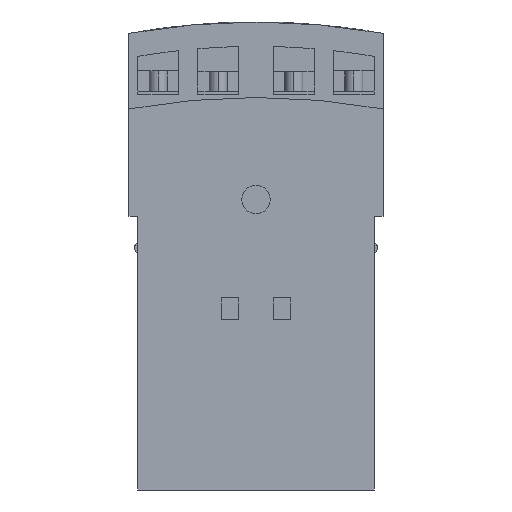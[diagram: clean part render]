
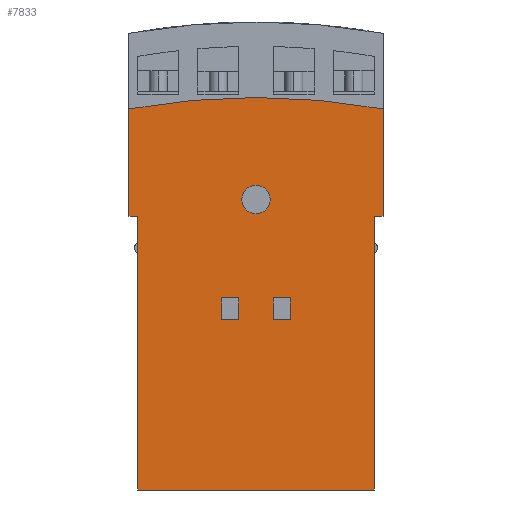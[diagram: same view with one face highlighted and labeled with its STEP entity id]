
A CAD part, front view. The second image highlights one B-rep face of the part: STEP entity #7833.
In plain terms, the highlighted planar face has unit normal (0, -1, 0).
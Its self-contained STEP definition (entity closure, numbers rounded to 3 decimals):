
#196=DIRECTION('',(1.,0.,0.));
#197=VECTOR('',#196,41.7);
#198=CARTESIAN_POINT('',(1.55,0.,0.));
#199=LINE('',#198,#197);
#2300=CARTESIAN_POINT('',(22.4,0.,-56.64));
#2301=DIRECTION('',(0.,-1.,0.));
#2302=DIRECTION('',(0.178,0.,0.984));
#2303=AXIS2_PLACEMENT_3D('',#2300,#2301,#2302);
#2308=DIRECTION('',(0.,0.,-1.));
#2309=VECTOR('',#2308,18.878);
#2310=CARTESIAN_POINT('',(44.8,0.,67.178));
#2311=LINE('',#2310,#2309);
#2315=DIRECTION('',(1.,0.,0.));
#2316=VECTOR('',#2315,1.55);
#2317=CARTESIAN_POINT('',(43.25,0.,48.3));
#2318=LINE('',#2317,#2316);
#2322=DIRECTION('',(0.,0.,1.));
#2323=VECTOR('',#2322,48.3);
#2324=CARTESIAN_POINT('',(43.25,0.,0.));
#2325=LINE('',#2324,#2323);
#2329=DIRECTION('',(0.,0.,1.));
#2330=VECTOR('',#2329,48.3);
#2331=CARTESIAN_POINT('',(1.55,0.,0.));
#2332=LINE('',#2331,#2330);
#2336=DIRECTION('',(-1.,0.,0.));
#2337=VECTOR('',#2336,1.55);
#2338=CARTESIAN_POINT('',(1.55,0.,48.3));
#2339=LINE('',#2338,#2337);
#2343=DIRECTION('',(0.,0.,1.));
#2344=VECTOR('',#2343,18.878);
#2345=CARTESIAN_POINT('',(0.,0.,48.3));
#2346=LINE('',#2345,#2344);
#2350=DIRECTION('',(0.,0.,1.));
#2351=VECTOR('',#2350,3.859);
#2352=CARTESIAN_POINT('',(28.45,0.,30.02));
#2353=LINE('',#2352,#2351);
#2357=DIRECTION('',(-1.,0.,0.));
#2358=VECTOR('',#2357,3.);
#2359=CARTESIAN_POINT('',(28.45,0.,33.88));
#2360=LINE('',#2359,#2358);
#2364=DIRECTION('',(0.,0.,-1.));
#2365=VECTOR('',#2364,3.859);
#2366=CARTESIAN_POINT('',(25.45,0.,33.88));
#2367=LINE('',#2366,#2365);
#2371=DIRECTION('',(1.,0.,0.));
#2372=VECTOR('',#2371,3.);
#2373=CARTESIAN_POINT('',(25.45,0.,30.02));
#2374=LINE('',#2373,#2372);
#2378=DIRECTION('',(0.,0.,1.));
#2379=VECTOR('',#2378,3.859);
#2380=CARTESIAN_POINT('',(19.35,0.,30.02));
#2381=LINE('',#2380,#2379);
#2385=DIRECTION('',(-1.,0.,0.));
#2386=VECTOR('',#2385,3.);
#2387=CARTESIAN_POINT('',(19.35,0.,33.88));
#2388=LINE('',#2387,#2386);
#2392=DIRECTION('',(0.,0.,-1.));
#2393=VECTOR('',#2392,3.859);
#2394=CARTESIAN_POINT('',(16.35,0.,33.88));
#2395=LINE('',#2394,#2393);
#2399=DIRECTION('',(1.,0.,0.));
#2400=VECTOR('',#2399,3.);
#2401=CARTESIAN_POINT('',(16.35,0.,30.02));
#2402=LINE('',#2401,#2400);
#2406=CARTESIAN_POINT('',(22.4,0.,51.2));
#2407=DIRECTION('',(0.,-1.,0.));
#2408=DIRECTION('',(0.,0.,1.));
#2409=AXIS2_PLACEMENT_3D('',#2406,#2407,#2408);
#2414=CARTESIAN_POINT('',(22.4,0.,51.2));
#2415=DIRECTION('',(0.,-1.,0.));
#2416=DIRECTION('',(0.,0.,-1.));
#2417=AXIS2_PLACEMENT_3D('',#2414,#2415,#2416);
#5230=CARTESIAN_POINT('',(1.55,0.,48.3));
#5231=CARTESIAN_POINT('',(0.,0.,48.3));
#5232=VERTEX_POINT('',#5230);
#5233=VERTEX_POINT('',#5231);
#5234=CARTESIAN_POINT('',(43.25,0.,0.));
#5235=CARTESIAN_POINT('',(43.25,0.,48.3));
#5236=VERTEX_POINT('',#5234);
#5237=VERTEX_POINT('',#5235);
#5238=CARTESIAN_POINT('',(1.55,0.,0.));
#5239=VERTEX_POINT('',#5238);
#5256=CARTESIAN_POINT('',(44.8,0.,48.3));
#5257=VERTEX_POINT('',#5256);
#5482=CARTESIAN_POINT('',(44.8,0.,67.178));
#5483=CARTESIAN_POINT('',(0.,0.,67.178));
#5484=VERTEX_POINT('',#5482);
#5485=VERTEX_POINT('',#5483);
#5910=CARTESIAN_POINT('',(28.45,0.,30.02));
#5911=CARTESIAN_POINT('',(28.45,0.,33.88));
#5912=VERTEX_POINT('',#5910);
#5913=VERTEX_POINT('',#5911);
#5914=CARTESIAN_POINT('',(25.45,0.,33.88));
#5915=VERTEX_POINT('',#5914);
#5916=CARTESIAN_POINT('',(25.45,0.,30.02));
#5917=VERTEX_POINT('',#5916);
#5918=CARTESIAN_POINT('',(19.35,0.,30.02));
#5919=CARTESIAN_POINT('',(19.35,0.,33.88));
#5920=VERTEX_POINT('',#5918);
#5921=VERTEX_POINT('',#5919);
#5922=CARTESIAN_POINT('',(16.35,0.,33.88));
#5923=VERTEX_POINT('',#5922);
#5924=CARTESIAN_POINT('',(16.35,0.,30.02));
#5925=VERTEX_POINT('',#5924);
#5926=CARTESIAN_POINT('',(22.4,0.,53.7));
#5927=CARTESIAN_POINT('',(22.4,0.,48.7));
#5928=VERTEX_POINT('',#5926);
#5929=VERTEX_POINT('',#5927);
#7787=CARTESIAN_POINT('',(0.,0.,0.));
#7788=DIRECTION('',(0.,-1.,0.));
#7789=DIRECTION('',(1.,0.,0.));
#7790=AXIS2_PLACEMENT_3D('',#7787,#7788,#7789);
#7791=PLANE('',#7790);
#7793=ORIENTED_EDGE('',*,*,#7792,.F.);
#7795=ORIENTED_EDGE('',*,*,#7794,.T.);
#7797=ORIENTED_EDGE('',*,*,#7796,.F.);
#7798=ORIENTED_EDGE('',*,*,#6734,.F.);
#7799=ORIENTED_EDGE('',*,*,#6109,.F.);
#7800=ORIENTED_EDGE('',*,*,#6564,.T.);
#7802=ORIENTED_EDGE('',*,*,#7801,.T.);
#7804=ORIENTED_EDGE('',*,*,#7803,.T.);
#7805=EDGE_LOOP('',(#7793,#7795,#7797,#7798,#7799,#7800,#7802,#7804));
#7806=FACE_OUTER_BOUND('',#7805,.F.);
#7808=ORIENTED_EDGE('',*,*,#7807,.T.);
#7810=ORIENTED_EDGE('',*,*,#7809,.T.);
#7812=ORIENTED_EDGE('',*,*,#7811,.T.);
#7814=ORIENTED_EDGE('',*,*,#7813,.T.);
#7815=EDGE_LOOP('',(#7808,#7810,#7812,#7814));
#7816=FACE_BOUND('',#7815,.F.);
#7818=ORIENTED_EDGE('',*,*,#7817,.T.);
#7820=ORIENTED_EDGE('',*,*,#7819,.T.);
#7822=ORIENTED_EDGE('',*,*,#7821,.T.);
#7824=ORIENTED_EDGE('',*,*,#7823,.T.);
#7825=EDGE_LOOP('',(#7818,#7820,#7822,#7824));
#7826=FACE_BOUND('',#7825,.F.);
#7828=ORIENTED_EDGE('',*,*,#7827,.T.);
#7830=ORIENTED_EDGE('',*,*,#7829,.T.);
#7831=EDGE_LOOP('',(#7828,#7830));
#7832=FACE_BOUND('',#7831,.F.);
#2304=CIRCLE('',#2303,125.828);
#2410=CIRCLE('',#2409,2.5);
#2418=CIRCLE('',#2417,2.5);
#6109=EDGE_CURVE('',#5239,#5236,#199,.T.);
#6564=EDGE_CURVE('',#5239,#5232,#2332,.T.);
#6734=EDGE_CURVE('',#5236,#5237,#2325,.T.);
#7792=EDGE_CURVE('',#5484,#5485,#2304,.T.);
#7794=EDGE_CURVE('',#5484,#5257,#2311,.T.);
#7796=EDGE_CURVE('',#5237,#5257,#2318,.T.);
#7801=EDGE_CURVE('',#5232,#5233,#2339,.T.);
#7803=EDGE_CURVE('',#5233,#5485,#2346,.T.);
#7807=EDGE_CURVE('',#5912,#5913,#2353,.T.);
#7809=EDGE_CURVE('',#5913,#5915,#2360,.T.);
#7811=EDGE_CURVE('',#5915,#5917,#2367,.T.);
#7813=EDGE_CURVE('',#5917,#5912,#2374,.T.);
#7817=EDGE_CURVE('',#5920,#5921,#2381,.T.);
#7819=EDGE_CURVE('',#5921,#5923,#2388,.T.);
#7821=EDGE_CURVE('',#5923,#5925,#2395,.T.);
#7823=EDGE_CURVE('',#5925,#5920,#2402,.T.);
#7827=EDGE_CURVE('',#5928,#5929,#2410,.T.);
#7829=EDGE_CURVE('',#5929,#5928,#2418,.T.);
#7833=ADVANCED_FACE('',(#7806,#7816,#7826,#7832),#7791,.T.);
